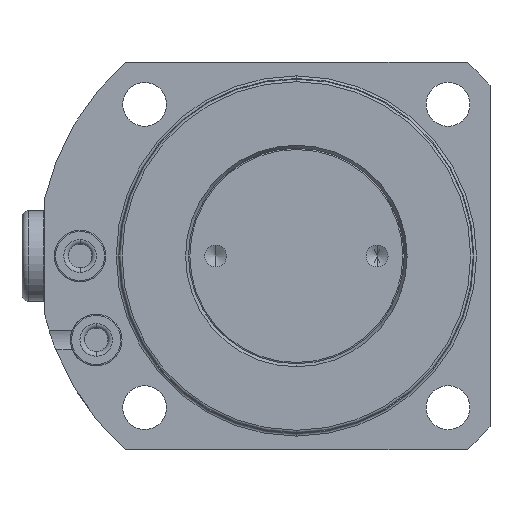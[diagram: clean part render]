
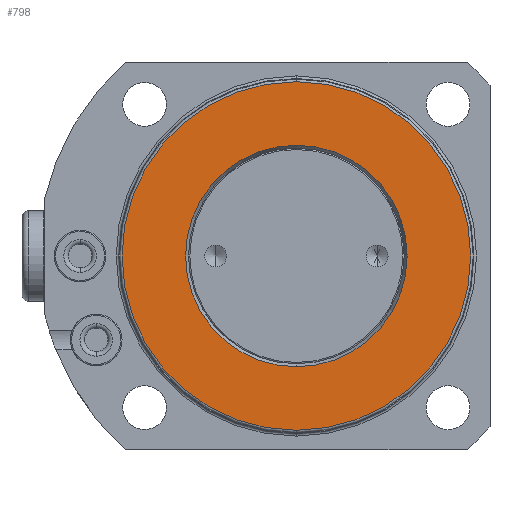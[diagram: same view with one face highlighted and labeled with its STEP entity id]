
A CAD part, front view. The second image highlights one B-rep face of the part: STEP entity #798.
In plain terms, the highlighted planar face has unit normal (0, -1, 0).
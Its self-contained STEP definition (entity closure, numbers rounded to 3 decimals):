
#349=PLANE('',#4888);
#421=FACE_BOUND('',#1420,.T.);
#422=FACE_BOUND('',#1421,.T.);
#798=ADVANCED_FACE('',(#421,#422),#349,.T.);
#1420=EDGE_LOOP('',(#2735,#2736));
#1421=EDGE_LOOP('',(#2737,#2738));
#2735=ORIENTED_EDGE('',*,*,#3904,.T.);
#2736=ORIENTED_EDGE('',*,*,#3972,.T.);
#2737=ORIENTED_EDGE('',*,*,#3899,.F.);
#2738=ORIENTED_EDGE('',*,*,#3973,.F.);
#3402=VERTEX_POINT('',#7904);
#3403=VERTEX_POINT('',#7905);
#3406=VERTEX_POINT('',#7913);
#3407=VERTEX_POINT('',#7915);
#3899=EDGE_CURVE('',#3402,#3403,#4324,.T.);
#3904=EDGE_CURVE('',#3407,#3406,#4328,.T.);
#3972=EDGE_CURVE('',#3406,#3407,#4364,.T.);
#3973=EDGE_CURVE('',#3403,#3402,#4365,.T.);
#4324=CIRCLE('',#4829,27.);
#4328=CIRCLE('',#4834,17.162);
#4364=CIRCLE('',#4885,17.162);
#4365=CIRCLE('',#4887,27.);
#4829=AXIS2_PLACEMENT_3D('',#7903,#5971,#5972);
#4834=AXIS2_PLACEMENT_3D('',#7914,#5982,#5983);
#4885=AXIS2_PLACEMENT_3D('',#8091,#6103,#6104);
#4887=AXIS2_PLACEMENT_3D('',#8093,#6107,#6108);
#4888=AXIS2_PLACEMENT_3D('',#8094,#6109,#6110);
#5971=DIRECTION('',(0.,1.,0.));
#5972=DIRECTION('',(0.,0.,1.));
#5982=DIRECTION('',(0.,1.,0.));
#5983=DIRECTION('',(0.,0.,1.));
#6103=DIRECTION('',(0.,1.,0.));
#6104=DIRECTION('',(0.,0.,1.));
#6107=DIRECTION('',(0.,1.,0.));
#6108=DIRECTION('',(0.,0.,1.));
#6109=DIRECTION('',(0.,-1.,0.));
#6110=DIRECTION('',(0.,0.,1.));
#7903=CARTESIAN_POINT('',(0.,1.087,0.));
#7904=CARTESIAN_POINT('',(0.,1.087,27.));
#7905=CARTESIAN_POINT('',(0.,1.087,-27.));
#7913=CARTESIAN_POINT('',(0.,1.087,17.162));
#7914=CARTESIAN_POINT('',(0.,1.087,0.));
#7915=CARTESIAN_POINT('',(0.,1.087,-17.162));
#8091=CARTESIAN_POINT('',(0.,1.087,0.));
#8093=CARTESIAN_POINT('',(0.,1.087,0.));
#8094=CARTESIAN_POINT('',(0.,1.087,0.));
